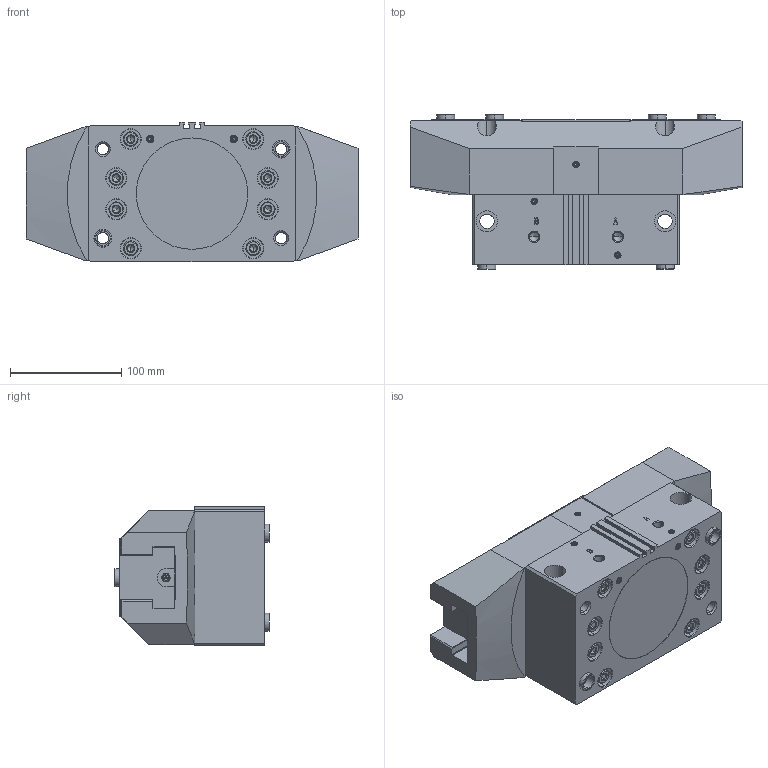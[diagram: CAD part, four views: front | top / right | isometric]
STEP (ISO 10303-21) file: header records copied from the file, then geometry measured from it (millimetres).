
FILE_DESCRIPTION (( 'STEP AP214' ), '1' );
FILE_NAME ('HP-NTS230H-M-Assy-61G292924-20241126-OC.STEP', '2024-11-26T06:10:20', ( '' ), ( '' ), 'SwSTEP 2.0', 'SolidWorks 2022', '' );
FILE_SCHEMA (( 'AUTOMOTIVE_DESIGN' ));
Length unit declared in the file: millimetre
Products named in the file (12): GREASE NIPPLE^HP-NTS230H-M; BODY^HP-NTS230H-M; BUSH^HP-NTS230H-M; S-TOME2^HP-NTS230H-M; BOLT^HP-NTS230H-M; HP-NTS230H-M-Assy-61G292924-20241126-OC; COVER^HP-NTS230H-M; S-SARA^HP-NTS230H-M; REAR BODY^HP-NTS230H-M; S-TOME1^HP-NTS230H-M; MASTER JAW^HP-NTS230H-M; Copy of 008CUA0001^HP-NTS230H-M
Assembly tree (31 placements, depth 2):
  HP-NTS230H-M-Assy-61G292924-20241126-OC
    BODY^HP-NTS230H-M
    REAR BODY^HP-NTS230H-M
    MASTER JAW^HP-NTS230H-M  x2
    COVER^HP-NTS230H-M
    BUSH^HP-NTS230H-M  x6
    BOLT^HP-NTS230H-M  x8
    S-TOME1^HP-NTS230H-M  x3
    S-TOME2^HP-NTS230H-M  x2
    Copy of 008CUA0001^HP-NTS230H-M
    S-SARA^HP-NTS230H-M  x4
    GREASE NIPPLE^HP-NTS230H-M  x2
Bounding box: 298 x 138.7 x 125 mm (x, y, z)
Volume: 3381811 mm3; surface area: 392105.4 mm2
Topology: 31 solids, 31 shells, 992 faces, 2363 edges, 1453 vertices
Faces by surface type: plane 390, cone 304, cylinder 250, torus 28, bspline 16, sphere 4
Entity records: 18770 total; most frequent: CARTESIAN_POINT 4561, DIRECTION 2772, ORIENTED_EDGE 2662, EDGE_CURVE 1331, AXIS2_PLACEMENT_3D 1016, VERTEX_POINT 841, VECTOR 740, LINE 740
